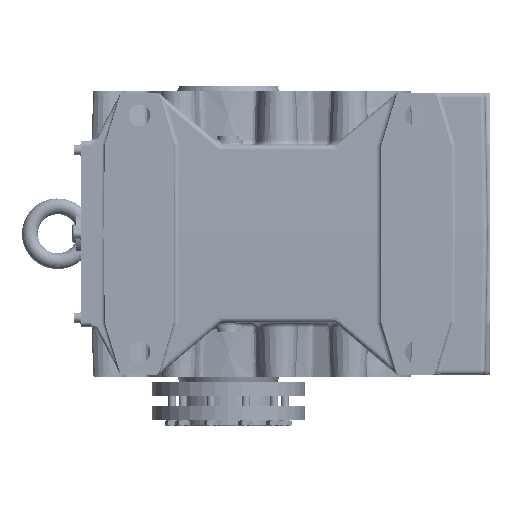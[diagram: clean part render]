
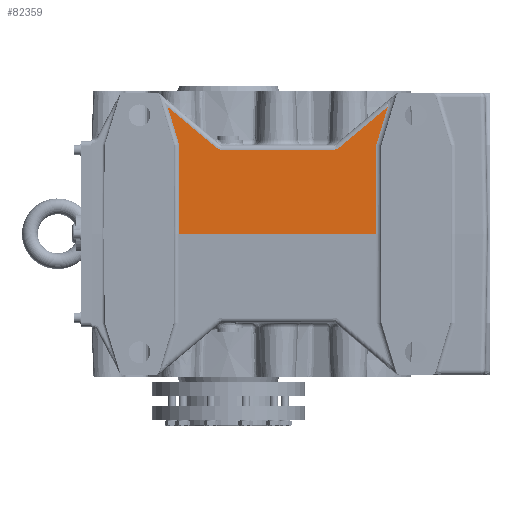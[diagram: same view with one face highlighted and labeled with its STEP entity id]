
A CAD part, left-side view. The second image highlights one B-rep face of the part: STEP entity #82359.
In plain terms, the highlighted planar face has unit normal (-1, 0, 0.018).
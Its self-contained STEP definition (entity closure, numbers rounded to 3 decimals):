
#82252=CARTESIAN_POINT('',(-154.989,50.,90.651));
#82253=VERTEX_POINT('',#82252);
#82261=CARTESIAN_POINT('',(-154.327,61.437,128.536));
#82262=VERTEX_POINT('',#82261);
#82263=CARTESIAN_POINT('',(-154.989,50.,90.651));
#82264=DIRECTION('',(0.017,0.289,0.957));
#82265=VECTOR('',#82264,39.579);
#82266=LINE('',#82263,#82265);
#82267=EDGE_CURVE('',#82253,#82262,#82266,.T.);
#82279=CARTESIAN_POINT('',(-156.571,-260.0,0.014));
#82280=DIRECTION('',(-1.,0.,0.017));
#82281=DIRECTION('',(0.017,0.,1.));
#82282=AXIS2_PLACEMENT_3D('',#82279,#82280,#82281);
#82283=PLANE('',#82282);
#82284=CARTESIAN_POINT('',(-155.045,-112.445,87.427));
#82285=VERTEX_POINT('',#82284);
#82286=CARTESIAN_POINT('',(-154.327,-161.437,128.536));
#82287=VERTEX_POINT('',#82286);
#82288=CARTESIAN_POINT('',(-155.045,-112.445,87.427));
#82289=DIRECTION('',(0.011,-0.766,0.643));
#82290=VECTOR('',#82289,63.958);
#82291=LINE('',#82288,#82290);
#82292=EDGE_CURVE('',#82285,#82287,#82291,.T.);
#82293=ORIENTED_EDGE('',*,*,#82292,.F.);
#82294=CARTESIAN_POINT('',(-155.086,-106.017,85.087));
#82295=VERTEX_POINT('',#82294);
#82296=CARTESIAN_POINT('',(-154.911,-106.017,95.087));
#82297=DIRECTION('',(-1.,0.,0.017));
#82298=DIRECTION('',(-0.017,0.,-1.));
#82299=AXIS2_PLACEMENT_3D('',#82296,#82297,#82298);
#82300=ELLIPSE('',#82299,10.002,10.0);
#82301=EDGE_CURVE('',#82295,#82285,#82300,.T.);
#82302=ORIENTED_EDGE('',*,*,#82301,.F.);
#82303=CARTESIAN_POINT('',(-155.086,6.017,85.087));
#82304=VERTEX_POINT('',#82303);
#82305=CARTESIAN_POINT('',(-155.086,6.017,85.087));
#82306=DIRECTION('',(0.0,-1.0,0.0));
#82307=VECTOR('',#82306,112.034);
#82308=LINE('',#82305,#82307);
#82309=EDGE_CURVE('',#82304,#82295,#82308,.T.);
#82310=ORIENTED_EDGE('',*,*,#82309,.F.);
#82311=CARTESIAN_POINT('',(-155.045,12.445,87.427));
#82312=VERTEX_POINT('',#82311);
#82313=CARTESIAN_POINT('',(-154.911,6.017,95.087));
#82314=DIRECTION('',(-1.,0.,0.017));
#82315=DIRECTION('',(-0.017,0.,-1.));
#82316=AXIS2_PLACEMENT_3D('',#82313,#82314,#82315);
#82317=ELLIPSE('',#82316,10.002,10.);
#82318=EDGE_CURVE('',#82312,#82304,#82317,.T.);
#82319=ORIENTED_EDGE('',*,*,#82318,.F.);
#82320=CARTESIAN_POINT('',(-154.327,61.437,128.536));
#82321=DIRECTION('',(-0.011,-0.766,-0.643));
#82322=VECTOR('',#82321,63.958);
#82323=LINE('',#82320,#82322);
#82324=EDGE_CURVE('',#82262,#82312,#82323,.T.);
#82325=ORIENTED_EDGE('',*,*,#82324,.F.);
#82326=ORIENTED_EDGE('',*,*,#82267,.F.);
#82327=CARTESIAN_POINT('',(-156.571,50.,0.0));
#82328=VERTEX_POINT('',#82327);
#82329=CARTESIAN_POINT('',(-156.571,50.,0.));
#82330=DIRECTION('',(0.017,0.0,1.));
#82331=VECTOR('',#82330,90.665);
#82332=LINE('',#82329,#82331);
#82333=EDGE_CURVE('',#82328,#82253,#82332,.T.);
#82334=ORIENTED_EDGE('',*,*,#82333,.F.);
#82335=CARTESIAN_POINT('',(-156.571,-150.0,0.0));
#82336=VERTEX_POINT('',#82335);
#82337=CARTESIAN_POINT('',(-156.571,-150.0,0.0));
#82338=DIRECTION('',(0.0,1.0,0.0));
#82339=VECTOR('',#82338,200.);
#82340=LINE('',#82337,#82339);
#82341=EDGE_CURVE('',#82328,#82336,#82340,.F.);
#82342=ORIENTED_EDGE('',*,*,#82341,.T.);
#82343=CARTESIAN_POINT('',(-154.989,-150.0,90.651));
#82344=VERTEX_POINT('',#82343);
#82345=CARTESIAN_POINT('',(-154.989,-150.0,90.651));
#82346=DIRECTION('',(-0.017,0.0,-1.));
#82347=VECTOR('',#82346,90.665);
#82348=LINE('',#82345,#82347);
#82349=EDGE_CURVE('',#82344,#82336,#82348,.T.);
#82350=ORIENTED_EDGE('',*,*,#82349,.F.);
#82351=CARTESIAN_POINT('',(-154.327,-161.437,128.536));
#82352=DIRECTION('',(-0.017,0.289,-0.957));
#82353=VECTOR('',#82352,39.579);
#82354=LINE('',#82351,#82353);
#82355=EDGE_CURVE('',#82287,#82344,#82354,.T.);
#82356=ORIENTED_EDGE('',*,*,#82355,.F.);
#82357=EDGE_LOOP('',(#82293,#82302,#82310,#82319,#82325,#82326,#82334,#82342,#82350,#82356));
#82358=FACE_OUTER_BOUND('',#82357,.T.);
#82359=ADVANCED_FACE('',(#82358),#82283,.T.);
